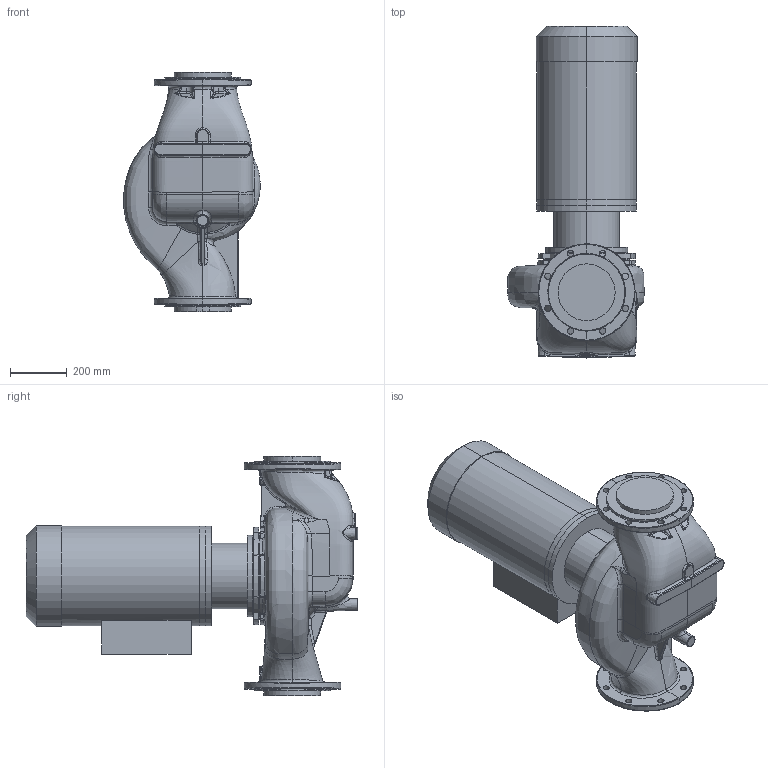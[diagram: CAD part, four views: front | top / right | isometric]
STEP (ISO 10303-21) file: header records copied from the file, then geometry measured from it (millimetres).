
FILE_DESCRIPTION (( 'STEP AP214' ), '1' );
FILE_NAME ('KRL 200-250-4-22.STEP', '2026-04-03T13:16:26', ( '' ), ( '' ), 'SwSTEP 2.0', 'SolidWorks 2016', '' );
FILE_SCHEMA (( 'AUTOMOTIVE_DESIGN' ));
Length unit declared in the file: millimetre
Products named in the file (1): KRL 200-250-4-22
Bounding box: 479.02 x 1165.8 x 840 mm (x, y, z)
Volume: 142182472.6 mm3; surface area: 2954337.8 mm2
Topology: 9 solids, 9 shells, 611 faces, 1514 edges, 918 vertices
Faces by surface type: bspline 312, cylinder 133, plane 125, cone 41
Entity records: 74533 total; most frequent: CARTESIAN_POINT 61976, ORIENTED_EDGE 2978, DIRECTION 1683, EDGE_CURVE 1489, VERTEX_POINT 918, B_SPLINE_CURVE_WITH_KNOTS 687, AXIS2_PLACEMENT_3D 682, EDGE_LOOP 665
